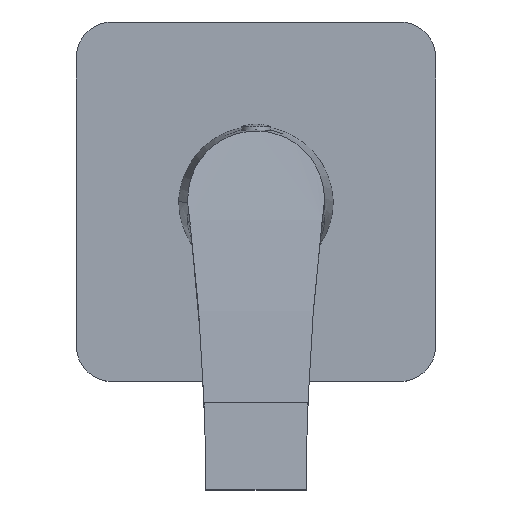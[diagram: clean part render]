
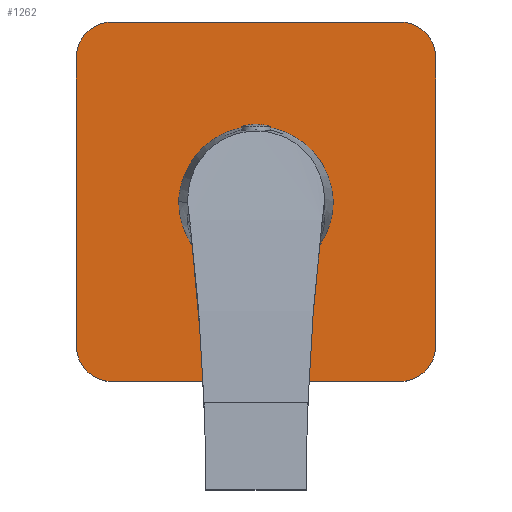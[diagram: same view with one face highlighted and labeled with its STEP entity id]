
A CAD part, top view. The second image highlights one B-rep face of the part: STEP entity #1262.
In plain terms, the highlighted planar face has unit normal (0, 0, 1).
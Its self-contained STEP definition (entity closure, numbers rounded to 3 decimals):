
#73=FACE_BOUND('',#276,.T.);
#157=PLANE('',#1372);
#201=FACE_OUTER_BOUND('',#275,.T.);
#275=EDGE_LOOP('',(#924,#925,#926,#927,#928,#929,#930,#931));
#276=EDGE_LOOP('',(#932,#933));
#349=LINE('',#1822,#428);
#355=LINE('',#1842,#434);
#358=LINE('',#1850,#437);
#361=LINE('',#1874,#440);
#428=VECTOR('',#1486,10.);
#434=VECTOR('',#1506,10.);
#437=VECTOR('',#1515,10.);
#440=VECTOR('',#1544,10.);
#504=CIRCLE('',#1347,10.);
#508=CIRCLE('',#1354,10.);
#509=CIRCLE('',#1357,10.);
#510=CIRCLE('',#1360,10.);
#516=CIRCLE('',#1369,20.5);
#517=CIRCLE('',#1370,20.5);
#567=VERTEX_POINT('',#1812);
#568=VERTEX_POINT('',#1814);
#570=VERTEX_POINT('',#1820);
#576=VERTEX_POINT('',#1836);
#577=VERTEX_POINT('',#1840);
#578=VERTEX_POINT('',#1844);
#579=VERTEX_POINT('',#1846);
#580=VERTEX_POINT('',#1852);
#586=VERTEX_POINT('',#1868);
#587=VERTEX_POINT('',#1869);
#691=EDGE_CURVE('',#567,#568,#504,.T.);
#695=EDGE_CURVE('',#567,#570,#349,.T.);
#703=EDGE_CURVE('',#576,#570,#508,.T.);
#705=EDGE_CURVE('',#576,#577,#355,.T.);
#707=EDGE_CURVE('',#578,#579,#509,.T.);
#709=EDGE_CURVE('',#578,#568,#358,.T.);
#711=EDGE_CURVE('',#580,#577,#510,.T.);
#717=EDGE_CURVE('',#586,#587,#516,.T.);
#718=EDGE_CURVE('',#587,#586,#517,.T.);
#720=EDGE_CURVE('',#580,#579,#361,.T.);
#924=ORIENTED_EDGE('',*,*,#691,.F.);
#925=ORIENTED_EDGE('',*,*,#695,.T.);
#926=ORIENTED_EDGE('',*,*,#703,.F.);
#927=ORIENTED_EDGE('',*,*,#705,.T.);
#928=ORIENTED_EDGE('',*,*,#711,.F.);
#929=ORIENTED_EDGE('',*,*,#720,.T.);
#930=ORIENTED_EDGE('',*,*,#707,.F.);
#931=ORIENTED_EDGE('',*,*,#709,.T.);
#932=ORIENTED_EDGE('',*,*,#717,.T.);
#933=ORIENTED_EDGE('',*,*,#718,.T.);
#1262=ADVANCED_FACE('',(#201,#73),#157,.T.);
#1347=AXIS2_PLACEMENT_3D('',#1815,#1479,#1480);
#1354=AXIS2_PLACEMENT_3D('',#1838,#1501,#1502);
#1357=AXIS2_PLACEMENT_3D('',#1847,#1510,#1511);
#1360=AXIS2_PLACEMENT_3D('',#1854,#1519,#1520);
#1369=AXIS2_PLACEMENT_3D('',#1870,#1537,#1538);
#1370=AXIS2_PLACEMENT_3D('',#1871,#1539,#1540);
#1372=AXIS2_PLACEMENT_3D('',#1875,#1545,#1546);
#1479=DIRECTION('center_axis',(0.,0.,-1.));
#1480=DIRECTION('ref_axis',(-0.707,-0.707,0.));
#1486=DIRECTION('',(1.,0.,0.));
#1501=DIRECTION('center_axis',(0.,0.,-1.));
#1502=DIRECTION('ref_axis',(0.707,-0.707,0.));
#1506=DIRECTION('',(0.,1.,0.));
#1510=DIRECTION('center_axis',(0.,0.,-1.));
#1511=DIRECTION('ref_axis',(-0.707,0.707,0.));
#1515=DIRECTION('',(0.,-1.,0.));
#1519=DIRECTION('center_axis',(0.,0.,-1.));
#1520=DIRECTION('ref_axis',(0.707,0.707,0.));
#1537=DIRECTION('center_axis',(0.,0.,-1.));
#1538=DIRECTION('ref_axis',(0.,1.,0.));
#1539=DIRECTION('center_axis',(0.,0.,-1.));
#1540=DIRECTION('ref_axis',(0.,1.,0.));
#1544=DIRECTION('',(-1.,0.,0.));
#1545=DIRECTION('center_axis',(0.,0.,1.));
#1546=DIRECTION('ref_axis',(1.,0.,0.));
#1812=CARTESIAN_POINT('',(-40.,-50.,-16.));
#1814=CARTESIAN_POINT('',(-50.,-40.,-16.));
#1815=CARTESIAN_POINT('Origin',(-40.,-40.,-16.));
#1820=CARTESIAN_POINT('',(40.,-50.,-16.));
#1822=CARTESIAN_POINT('',(-50.,-50.,-16.));
#1836=CARTESIAN_POINT('',(50.,-40.,-16.));
#1838=CARTESIAN_POINT('Origin',(40.,-40.,-16.));
#1840=CARTESIAN_POINT('',(50.,40.,-16.));
#1842=CARTESIAN_POINT('',(50.,-50.,-16.));
#1844=CARTESIAN_POINT('',(-50.,40.,-16.));
#1846=CARTESIAN_POINT('',(-40.,50.,-16.));
#1847=CARTESIAN_POINT('Origin',(-40.,40.,-16.));
#1850=CARTESIAN_POINT('',(-50.,50.,-16.));
#1852=CARTESIAN_POINT('',(40.,50.,-16.));
#1854=CARTESIAN_POINT('Origin',(40.,40.,-16.));
#1868=CARTESIAN_POINT('',(0.,20.5,-16.));
#1869=CARTESIAN_POINT('',(0.,-20.5,-16.));
#1870=CARTESIAN_POINT('Origin',(0.,0.,-16.));
#1871=CARTESIAN_POINT('Origin',(0.,0.,-16.));
#1874=CARTESIAN_POINT('',(50.,50.,-16.));
#1875=CARTESIAN_POINT('Origin',(0.,0.,-16.));
